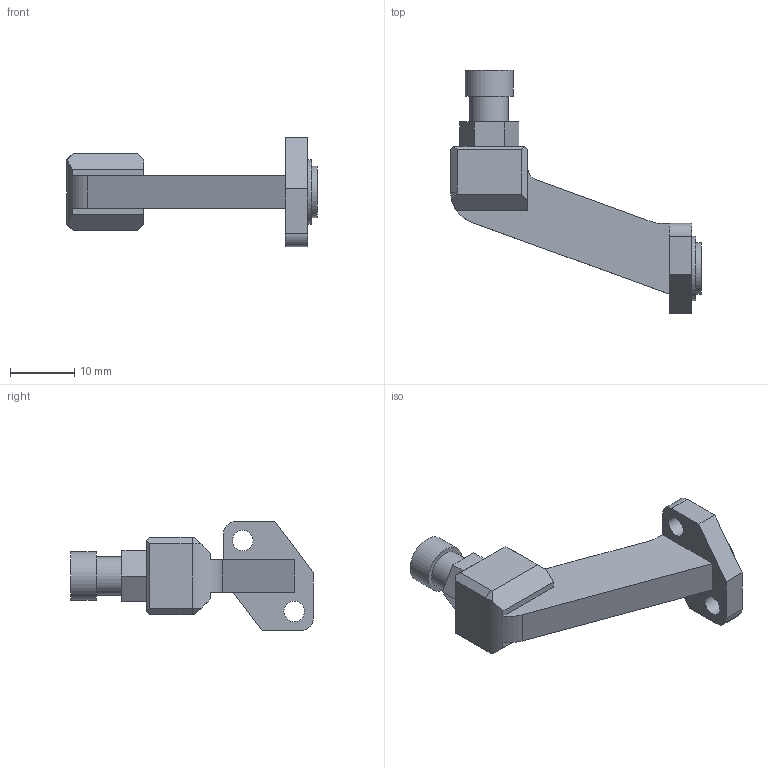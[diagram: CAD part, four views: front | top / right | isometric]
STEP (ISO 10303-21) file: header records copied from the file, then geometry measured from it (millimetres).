
FILE_DESCRIPTION (( 'STEP AP214' ), '1' );
FILE_NAME ('PCPM-SYRINGE3055CC-S.STEP', '2024-10-14T14:47:53', ( '' ), ( '' ), 'SwSTEP 2.0', 'SolidWorks 2024', '' );
FILE_SCHEMA (( 'AUTOMOTIVE_DESIGN' ));
Length unit declared in the file: millimetre
Products named in the file (1): PCPM-SYRINGE3055CC-S
Bounding box: 39 x 37.8 x 17 mm (x, y, z)
Volume: 3103.5 mm3; surface area: 2993.3 mm2
Topology: 1 solids, 1 shells, 66 faces, 167 edges, 107 vertices
Faces by surface type: plane 42, cylinder 15, cone 9
Full cylindrical faces by diameter (mm): 3.2 x2, 4 x3, 5.5 x1, 6 x1, 7.5 x1, 8 x1, 10 x1
Entity records: 1955 total; most frequent: CARTESIAN_POINT 393, DIRECTION 309, ORIENTED_EDGE 306, EDGE_CURVE 153, VERTEX_POINT 106, AXIS2_PLACEMENT_3D 105, LINE 99, VECTOR 99
